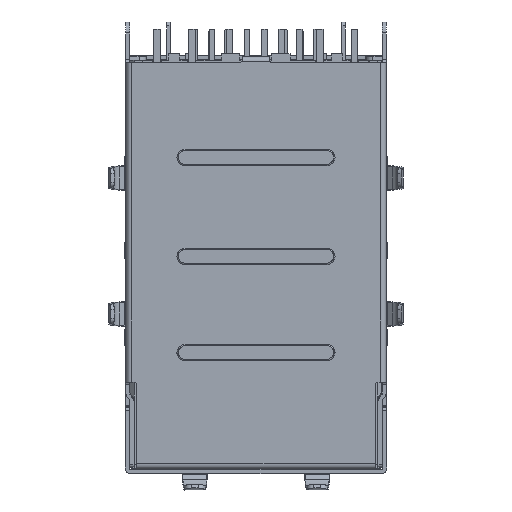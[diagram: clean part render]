
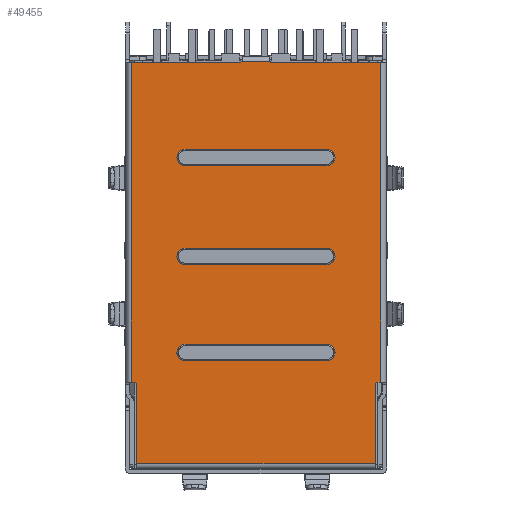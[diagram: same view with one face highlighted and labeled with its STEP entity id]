
A CAD part, front view. The second image highlights one B-rep face of the part: STEP entity #49455.
In plain terms, the highlighted planar face has unit normal (0, -1, 0).
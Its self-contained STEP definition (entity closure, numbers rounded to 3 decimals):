
#3209=DIRECTION('',(0.,0.,1.));
#3210=VECTOR('',#3209,5.75);
#3211=CARTESIAN_POINT('',(-8.65,-0.3,-14.25));
#3212=LINE('',#3211,#3210);
#3213=CARTESIAN_POINT('',(-8.85,-0.3,-8.5));
#3214=DIRECTION('',(0.,-1.,0.));
#3215=DIRECTION('',(1.,0.,0.));
#3216=AXIS2_PLACEMENT_3D('',#3213,#3214,#3215);
#3218=CARTESIAN_POINT('',(-1.175,-0.3,15.15));
#3219=DIRECTION('',(0.,-1.,0.));
#3220=DIRECTION('',(0.,0.,-1.));
#3221=AXIS2_PLACEMENT_3D('',#3218,#3219,#3220);
#3223=CARTESIAN_POINT('',(1.225,-0.3,15.15));
#3224=DIRECTION('',(0.,-1.,0.));
#3225=DIRECTION('',(-0.661,0.,-0.75));
#3226=AXIS2_PLACEMENT_3D('',#3223,#3224,#3225);
#3228=DIRECTION('',(1.,0.,0.));
#3229=VECTOR('',#3228,7.875);
#3230=CARTESIAN_POINT('',(1.225,-0.3,14.95));
#3231=LINE('',#3230,#3229);
#3232=DIRECTION('',(-1.,0.,0.));
#3233=VECTOR('',#3232,0.2);
#3234=CARTESIAN_POINT('',(9.1,-0.3,-8.3));
#3235=LINE('',#3234,#3233);
#3236=CARTESIAN_POINT('',(8.9,-0.3,-8.5));
#3237=DIRECTION('',(0.,-1.,0.));
#3238=DIRECTION('',(0.,0.,1.));
#3239=AXIS2_PLACEMENT_3D('',#3236,#3237,#3238);
#3241=DIRECTION('',(0.,0.,-1.));
#3242=VECTOR('',#3241,5.75);
#3243=CARTESIAN_POINT('',(8.7,-0.3,-8.5));
#3244=LINE('',#3243,#3242);
#3245=CARTESIAN_POINT('',(-5.125,-0.3,-6.15));
#3246=DIRECTION('',(0.,-1.,0.));
#3247=DIRECTION('',(0.,0.,1.));
#3248=AXIS2_PLACEMENT_3D('',#3245,#3246,#3247);
#3250=CARTESIAN_POINT('',(5.175,-0.3,-6.15));
#3251=DIRECTION('',(0.,-1.,0.));
#3252=DIRECTION('',(0.,0.,-1.));
#3253=AXIS2_PLACEMENT_3D('',#3250,#3251,#3252);
#3255=CARTESIAN_POINT('',(-5.125,-0.3,0.85));
#3256=DIRECTION('',(0.,-1.,0.));
#3257=DIRECTION('',(0.,0.,1.));
#3258=AXIS2_PLACEMENT_3D('',#3255,#3256,#3257);
#3260=CARTESIAN_POINT('',(5.175,-0.3,0.85));
#3261=DIRECTION('',(0.,-1.,0.));
#3262=DIRECTION('',(0.,0.,-1.));
#3263=AXIS2_PLACEMENT_3D('',#3260,#3261,#3262);
#3265=CARTESIAN_POINT('',(-5.125,-0.3,8.05));
#3266=DIRECTION('',(0.,-1.,0.));
#3267=DIRECTION('',(0.,0.,1.));
#3268=AXIS2_PLACEMENT_3D('',#3265,#3266,#3267);
#3270=CARTESIAN_POINT('',(5.175,-0.3,8.05));
#3271=DIRECTION('',(0.,-1.,0.));
#3272=DIRECTION('',(0.,0.,-1.));
#3273=AXIS2_PLACEMENT_3D('',#3270,#3271,#3272);
#13631=DIRECTION('',(1.,0.,0.));
#13632=VECTOR('',#13631,17.35);
#13633=CARTESIAN_POINT('',(-8.65,-0.3,-14.25));
#13634=LINE('',#13633,#13632);
#16343=DIRECTION('',(0.,0.,1.));
#16344=VECTOR('',#16343,23.25);
#16345=CARTESIAN_POINT('',(9.1,-0.3,-8.3));
#16346=LINE('',#16345,#16344);
#17571=DIRECTION('',(1.,0.,0.));
#17572=VECTOR('',#17571,0.2);
#17573=CARTESIAN_POINT('',(-9.05,-0.3,-8.3));
#17574=LINE('',#17573,#17572);
#17832=DIRECTION('',(-1.,0.,0.));
#17833=VECTOR('',#17832,7.875);
#17834=CARTESIAN_POINT('',(-1.175,-0.3,14.95));
#17835=LINE('',#17834,#17833);
#28214=DIRECTION('',(-1.,0.,0.));
#28215=VECTOR('',#28214,2.135);
#28216=CARTESIAN_POINT('',(1.093,-0.3,15.));
#28217=LINE('',#28216,#28215);
#28218=CARTESIAN_POINT('',(-1.043,-0.3,15.));
#28405=DIRECTION('',(0.,0.,-1.));
#28406=VECTOR('',#28405,23.25);
#28407=CARTESIAN_POINT('',(-9.05,-0.3,14.95));
#28408=LINE('',#28407,#28406);
#30138=DIRECTION('',(-1.,0.,0.));
#30139=VECTOR('',#30138,10.3);
#30140=CARTESIAN_POINT('',(5.175,-0.3,
-6.75));
#30141=LINE('',#30140,#30139);
#30183=DIRECTION('',(1.,0.,0.));
#30184=VECTOR('',#30183,10.3);
#30185=CARTESIAN_POINT('',(-5.125,-0.3,
-5.55));
#30186=LINE('',#30185,#30184);
#30228=DIRECTION('',(-1.,0.,0.));
#30229=VECTOR('',#30228,10.3);
#30230=CARTESIAN_POINT('',(5.175,-0.3,
0.25));
#30231=LINE('',#30230,#30229);
#30273=DIRECTION('',(1.,0.,0.));
#30274=VECTOR('',#30273,10.3);
#30275=CARTESIAN_POINT('',(-5.125,-0.3,
1.45));
#30276=LINE('',#30275,#30274);
#30318=DIRECTION('',(-1.,0.,0.));
#30319=VECTOR('',#30318,10.3);
#30320=CARTESIAN_POINT('',(5.175,-0.3,
7.45));
#30321=LINE('',#30320,#30319);
#30363=DIRECTION('',(1.,0.,0.));
#30364=VECTOR('',#30363,10.3);
#30365=CARTESIAN_POINT('',(-5.125,-0.3,
8.65));
#30366=LINE('',#30365,#30364);
#40906=CARTESIAN_POINT('',(8.9,-0.3,-8.3));
#40907=VERTEX_POINT('',#40906);
#40908=CARTESIAN_POINT('',(9.1,-0.3,-8.3));
#40909=VERTEX_POINT('',#40908);
#40912=CARTESIAN_POINT('',(9.1,-0.3,14.95));
#40913=VERTEX_POINT('',#40912);
#40914=CARTESIAN_POINT('',(1.225,-0.3,14.95));
#40915=VERTEX_POINT('',#40914);
#40970=CARTESIAN_POINT('',(-1.175,-0.3,14.95));
#40971=VERTEX_POINT('',#40970);
#40972=CARTESIAN_POINT('',(-9.05,-0.3,14.95));
#40973=VERTEX_POINT('',#40972);
#40982=VERTEX_POINT('',#28218);
#44144=CARTESIAN_POINT('',(-9.05,-0.3,-8.3));
#44145=VERTEX_POINT('',#44144);
#44146=CARTESIAN_POINT('',(-8.65,-0.3,-14.25));
#44147=CARTESIAN_POINT('',(-8.65,-0.3,-8.5));
#44148=VERTEX_POINT('',#44146);
#44149=VERTEX_POINT('',#44147);
#44150=CARTESIAN_POINT('',(-8.85,-0.3,-8.3));
#44151=VERTEX_POINT('',#44150);
#44152=CARTESIAN_POINT('',(1.093,-0.3,15.));
#44153=VERTEX_POINT('',#44152);
#44154=CARTESIAN_POINT('',(8.7,-0.3,-8.5));
#44155=VERTEX_POINT('',#44154);
#44156=CARTESIAN_POINT('',(8.7,-0.3,-14.25));
#44157=VERTEX_POINT('',#44156);
#44158=CARTESIAN_POINT('',(-5.125,-0.3,
-5.55));
#44159=CARTESIAN_POINT('',(-5.125,-0.3,
-6.75));
#44160=VERTEX_POINT('',#44158);
#44161=VERTEX_POINT('',#44159);
#44162=CARTESIAN_POINT('',(5.175,-0.3,
-6.75));
#44163=VERTEX_POINT('',#44162);
#44164=CARTESIAN_POINT('',(5.175,-0.3,
-5.55));
#44165=VERTEX_POINT('',#44164);
#44166=CARTESIAN_POINT('',(-5.125,-0.3,
1.45));
#44167=CARTESIAN_POINT('',(-5.125,-0.3,
0.25));
#44168=VERTEX_POINT('',#44166);
#44169=VERTEX_POINT('',#44167);
#44170=CARTESIAN_POINT('',(5.175,-0.3,
0.25));
#44171=VERTEX_POINT('',#44170);
#44172=CARTESIAN_POINT('',(5.175,-0.3,
1.45));
#44173=VERTEX_POINT('',#44172);
#44174=CARTESIAN_POINT('',(-5.125,-0.3,
8.65));
#44175=CARTESIAN_POINT('',(-5.125,-0.3,
7.45));
#44176=VERTEX_POINT('',#44174);
#44177=VERTEX_POINT('',#44175);
#44178=CARTESIAN_POINT('',(5.175,-0.3,
7.45));
#44179=VERTEX_POINT('',#44178);
#44180=CARTESIAN_POINT('',(5.175,-0.3,
8.65));
#44181=VERTEX_POINT('',#44180);
#49392=CARTESIAN_POINT('',(0.025,-0.3,0.375));
#49393=DIRECTION('',(0.,1.,0.));
#49394=DIRECTION('',(0.,0.,1.));
#49395=AXIS2_PLACEMENT_3D('',#49392,#49393,#49394);
#49396=PLANE('',#49395);
#49398=ORIENTED_EDGE('',*,*,#49397,.T.);
#49400=ORIENTED_EDGE('',*,*,#49399,.T.);
#49402=ORIENTED_EDGE('',*,*,#49401,.F.);
#49404=ORIENTED_EDGE('',*,*,#49403,.F.);
#49406=ORIENTED_EDGE('',*,*,#49405,.F.);
#49408=ORIENTED_EDGE('',*,*,#49407,.T.);
#49410=ORIENTED_EDGE('',*,*,#49409,.F.);
#49411=ORIENTED_EDGE('',*,*,#49381,.T.);
#49412=ORIENTED_EDGE('',*,*,#49345,.T.);
#49414=ORIENTED_EDGE('',*,*,#49413,.F.);
#49416=ORIENTED_EDGE('',*,*,#49415,.T.);
#49418=ORIENTED_EDGE('',*,*,#49417,.T.);
#49420=ORIENTED_EDGE('',*,*,#49419,.T.);
#49422=ORIENTED_EDGE('',*,*,#49421,.F.);
#49423=EDGE_LOOP('',(#49398,#49400,#49402,#49404,#49406,#49408,#49410,#49411,
#49412,#49414,#49416,#49418,#49420,#49422));
#49424=FACE_OUTER_BOUND('',#49423,.F.);
#49426=ORIENTED_EDGE('',*,*,#49425,.T.);
#49428=ORIENTED_EDGE('',*,*,#49427,.F.);
#49430=ORIENTED_EDGE('',*,*,#49429,.T.);
#49432=ORIENTED_EDGE('',*,*,#49431,.F.);
#49433=EDGE_LOOP('',(#49426,#49428,#49430,#49432));
#49434=FACE_BOUND('',#49433,.F.);
#49436=ORIENTED_EDGE('',*,*,#49435,.T.);
#49438=ORIENTED_EDGE('',*,*,#49437,.F.);
#49440=ORIENTED_EDGE('',*,*,#49439,.T.);
#49442=ORIENTED_EDGE('',*,*,#49441,.F.);
#49443=EDGE_LOOP('',(#49436,#49438,#49440,#49442));
#49444=FACE_BOUND('',#49443,.F.);
#49446=ORIENTED_EDGE('',*,*,#49445,.T.);
#49448=ORIENTED_EDGE('',*,*,#49447,.F.);
#49450=ORIENTED_EDGE('',*,*,#49449,.T.);
#49452=ORIENTED_EDGE('',*,*,#49451,.F.);
#49453=EDGE_LOOP('',(#49446,#49448,#49450,#49452));
#49454=FACE_BOUND('',#49453,.F.);
#49455=ADVANCED_FACE('',(#49424,#49434,#49444,#49454),#49396,.F.);
#3217=CIRCLE('',#3216,0.2);
#3222=CIRCLE('',#3221,0.2);
#3227=CIRCLE('',#3226,0.2);
#3240=CIRCLE('',#3239,0.2);
#3249=CIRCLE('',#3248,0.6);
#3254=CIRCLE('',#3253,0.6);
#3259=CIRCLE('',#3258,0.6);
#3264=CIRCLE('',#3263,0.6);
#3269=CIRCLE('',#3268,0.6);
#3274=CIRCLE('',#3273,0.6);
#49345=EDGE_CURVE('',#40915,#40913,#3231,.T.);
#49381=EDGE_CURVE('',#44153,#40915,#3227,.T.);
#49397=EDGE_CURVE('',#44148,#44149,#3212,.T.);
#49399=EDGE_CURVE('',#44149,#44151,#3217,.T.);
#49401=EDGE_CURVE('',#44145,#44151,#17574,.T.);
#49403=EDGE_CURVE('',#40973,#44145,#28408,.T.);
#49405=EDGE_CURVE('',#40971,#40973,#17835,.T.);
#49407=EDGE_CURVE('',#40971,#40982,#3222,.T.);
#49409=EDGE_CURVE('',#44153,#40982,#28217,.T.);
#49413=EDGE_CURVE('',#40909,#40913,#16346,.T.);
#49415=EDGE_CURVE('',#40909,#40907,#3235,.T.);
#49417=EDGE_CURVE('',#40907,#44155,#3240,.T.);
#49419=EDGE_CURVE('',#44155,#44157,#3244,.T.);
#49421=EDGE_CURVE('',#44148,#44157,#13634,.T.);
#49425=EDGE_CURVE('',#44160,#44161,#3249,.T.);
#49427=EDGE_CURVE('',#44163,#44161,#30141,.T.);
#49429=EDGE_CURVE('',#44163,#44165,#3254,.T.);
#49431=EDGE_CURVE('',#44160,#44165,#30186,.T.);
#49435=EDGE_CURVE('',#44168,#44169,#3259,.T.);
#49437=EDGE_CURVE('',#44171,#44169,#30231,.T.);
#49439=EDGE_CURVE('',#44171,#44173,#3264,.T.);
#49441=EDGE_CURVE('',#44168,#44173,#30276,.T.);
#49445=EDGE_CURVE('',#44176,#44177,#3269,.T.);
#49447=EDGE_CURVE('',#44179,#44177,#30321,.T.);
#49449=EDGE_CURVE('',#44179,#44181,#3274,.T.);
#49451=EDGE_CURVE('',#44176,#44181,#30366,.T.);
